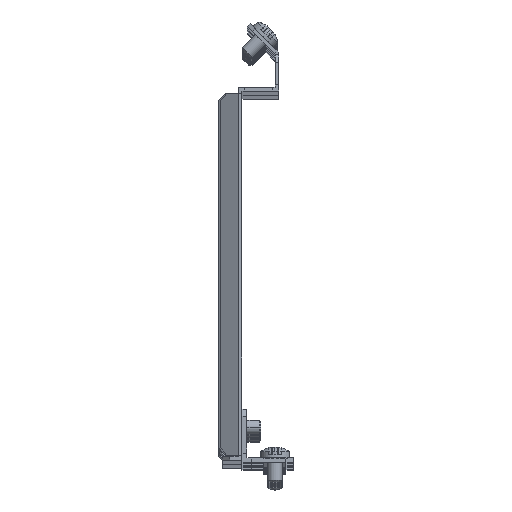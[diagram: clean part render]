
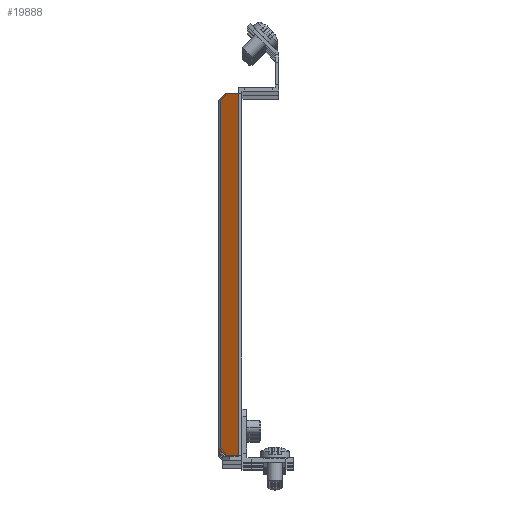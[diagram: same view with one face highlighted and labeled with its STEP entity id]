
A CAD part, top view. The second image highlights one B-rep face of the part: STEP entity #19888.
In plain terms, the highlighted planar face has unit normal (-0.5, 0, 0.866).
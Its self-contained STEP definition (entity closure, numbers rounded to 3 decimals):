
#620 = VERTEX_POINT ( 'NONE', #20888 ) ;
#672 = DIRECTION ( 'NONE',  ( 0., 1., 0. ) ) ;
#1287 = LINE ( 'NONE', #17516, #3030 ) ;
#1592 = EDGE_CURVE ( 'NONE', #14104, #22558, #9259, .T. ) ;
#1906 = CARTESIAN_POINT ( 'NONE',  ( -8.011, -72.143, 958.589 ) ) ;
#1912 = LINE ( 'NONE', #3824, #2542 ) ;
#2542 = VECTOR ( 'NONE', #5747, 1000. ) ;
#2609 = DIRECTION ( 'NONE',  ( 0., -1., 0. ) ) ;
#3030 = VECTOR ( 'NONE', #8614, 1000. ) ;
#3724 = DIRECTION ( 'NONE',  ( 0.866, 0., 0.5 ) ) ;
#3824 = CARTESIAN_POINT ( 'NONE',  ( -0.75, 72.647, 962.781 ) ) ;
#4670 = DIRECTION ( 'NONE',  ( 0., 1., 0. ) ) ;
#5338 = VERTEX_POINT ( 'NONE', #17892 ) ;
#5539 = ORIENTED_EDGE ( 'NONE', *, *, #1592, .T. ) ;
#5696 = VECTOR ( 'NONE', #4670, 1000. ) ;
#5747 = DIRECTION ( 'NONE',  ( 0.866, 0., 0.5 ) ) ;
#6203 = ORIENTED_EDGE ( 'NONE', *, *, #8037, .F. ) ;
#6666 = CARTESIAN_POINT ( 'NONE',  ( 0.232, 0., 963.348 ) ) ;
#7053 = CARTESIAN_POINT ( 'NONE',  ( -207.514, 72.647, 843.406 ) ) ;
#7120 = VECTOR ( 'NONE', #14387, 1000. ) ;
#7730 = CARTESIAN_POINT ( 'NONE',  ( -8.011, 69.647, 958.589 ) ) ;
#8037 = EDGE_CURVE ( 'NONE', #8331, #9666, #13695, .T. ) ;
#8331 = VERTEX_POINT ( 'NONE', #1906 ) ;
#8614 = DIRECTION ( 'NONE',  ( 0.612, -0.707, 0.354 ) ) ;
#8966 = ORIENTED_EDGE ( 'NONE', *, *, #16450, .F. ) ;
#9259 = LINE ( 'NONE', #14672, #16305 ) ;
#9604 = EDGE_CURVE ( 'NONE', #5338, #620, #1912, .T. ) ;
#9666 = VERTEX_POINT ( 'NONE', #17155 ) ;
#10039 = ORIENTED_EDGE ( 'NONE', *, *, #9604, .F. ) ;
#10421 = DIRECTION ( 'NONE',  ( 0.5, 0., -0.866 ) ) ;
#11051 = AXIS2_PLACEMENT_3D ( 'NONE', #19420, #10421, #2609 ) ;
#11289 = VERTEX_POINT ( 'NONE', #15346 ) ;
#11976 = FACE_OUTER_BOUND ( 'NONE', #22226, .T. ) ;
#12306 = VERTEX_POINT ( 'NONE', #23395 ) ;
#13695 = LINE ( 'NONE', #18971, #5696 ) ;
#13953 = EDGE_CURVE ( 'NONE', #8331, #11289, #1287, .T. ) ;
#14104 = VERTEX_POINT ( 'NONE', #16981 ) ;
#14107 = VECTOR ( 'NONE', #672, 1000. ) ;
#14387 = DIRECTION ( 'NONE',  ( 0.866, 0., 0.5 ) ) ;
#14672 = CARTESIAN_POINT ( 'NONE',  ( -2.25, -75.143, 961.915 ) ) ;
#15069 = DIRECTION ( 'NONE',  ( -0.612, -0.707, -0.354 ) ) ;
#15344 = ORIENTED_EDGE ( 'NONE', *, *, #13953, .T. ) ;
#15346 = CARTESIAN_POINT ( 'NONE',  ( -5.413, -75.143, 960.089 ) ) ;
#15723 = PLANE ( 'NONE',  #11051 ) ;
#16305 = VECTOR ( 'NONE', #3724, 1000. ) ;
#16450 = EDGE_CURVE ( 'NONE', #620, #12306, #19793, .T. ) ;
#16600 = ORIENTED_EDGE ( 'NONE', *, *, #17958, .T. ) ;
#16981 = CARTESIAN_POINT ( 'NONE',  ( -2.25, -75.143, 961.915 ) ) ;
#16988 = CARTESIAN_POINT ( 'NONE',  ( -8.011, -75.143, 958.589 ) ) ;
#17155 = CARTESIAN_POINT ( 'NONE',  ( -8.011, 69.647, 958.589 ) ) ;
#17516 = CARTESIAN_POINT ( 'NONE',  ( -5.413, -75.143, 960.089 ) ) ;
#17862 = VECTOR ( 'NONE', #18803, 1000. ) ;
#17892 = CARTESIAN_POINT ( 'NONE',  ( -5.413, 72.647, 960.089 ) ) ;
#17958 = EDGE_CURVE ( 'NONE', #22558, #12306, #22663, .T. ) ;
#18259 = CARTESIAN_POINT ( 'NONE',  ( 0.232, -75.143, 963.348 ) ) ;
#18803 = DIRECTION ( 'NONE',  ( -0.866, 0., -0.5 ) ) ;
#18971 = CARTESIAN_POINT ( 'NONE',  ( -8.011, 72.647, 958.589 ) ) ;
#19420 = CARTESIAN_POINT ( 'NONE',  ( -207.514, 0., 843.406 ) ) ;
#19793 = LINE ( 'NONE', #7053, #7120 ) ;
#19888 = ADVANCED_FACE ( 'NONE', ( #11976 ), #15723, .F. ) ;
#20708 = LINE ( 'NONE', #7730, #20910 ) ;
#20888 = CARTESIAN_POINT ( 'NONE',  ( -2.25, 72.647, 961.915 ) ) ;
#20910 = VECTOR ( 'NONE', #15069, 1000. ) ;
#21694 = LINE ( 'NONE', #16988, #17862 ) ;
#21851 = EDGE_CURVE ( 'NONE', #5338, #9666, #20708, .T. ) ;
#21907 = ORIENTED_EDGE ( 'NONE', *, *, #23274, .F. ) ;
#22226 = EDGE_LOOP ( 'NONE', ( #5539, #16600, #8966, #10039, #23419, #6203, #15344, #21907 ) ) ;
#22558 = VERTEX_POINT ( 'NONE', #18259 ) ;
#22663 = LINE ( 'NONE', #6666, #14107 ) ;
#23274 = EDGE_CURVE ( 'NONE', #14104, #11289, #21694, .T. ) ;
#23395 = CARTESIAN_POINT ( 'NONE',  ( 0.232, 72.647, 963.348 ) ) ;
#23419 = ORIENTED_EDGE ( 'NONE', *, *, #21851, .T. ) ;
